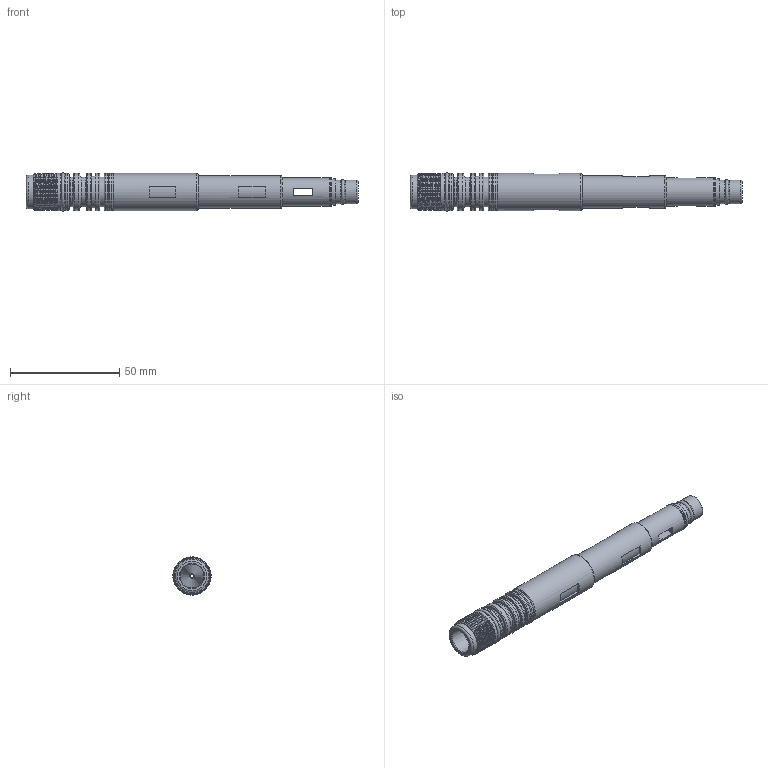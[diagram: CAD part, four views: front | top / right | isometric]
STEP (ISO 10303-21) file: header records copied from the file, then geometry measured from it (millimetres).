
FILE_DESCRIPTION( ( 'STEP AP203' ), '1' );
FILE_NAME( 'D:/撲啗紫賊-02/撲啗紫賊-02/project-06/Vacuum Cartridge-3D/VC303.stp', '2007-05-25T06:07:42', ( ' ' ), ( ' ' ), 'XStep 1.0', ' ', ' ' );
FILE_SCHEMA( ( 'CONFIG_CONTROL_DESIGN) ( )' ) );
Length unit declared in the file: metre
Products named in the file (1): 1
Bounding box: 151.9 x 17.5 x 17.5 mm (x, y, z)
Volume: 21715 mm3; surface area: 12162.4 mm2
Topology: 1 solids, 1 shells, 134 faces, 273 edges, 170 vertices
Faces by surface type: plane 48, cylinder 45, torus 36, cone 3, bspline 2
Full cylindrical faces by diameter (mm): 5.5 x1, 7 x1, 8.5 x2, 9 x1, 10.8 x2, 11.9 x1, 13 x1, 13.1 x1, 13.5 x3, 14.5 x3, 15 x1, 15.4 x1, 16.208 x2, 17 x20
Entity records: 4286 total; most frequent: CARTESIAN_POINT 1965, DIRECTION 515, ORIENTED_EDGE 330, AXIS2_PLACEMENT_3D 237, EDGE_LOOP 222, FACE_OUTER_BOUND 185, EDGE_CURVE 165, VERTEX_POINT 141
